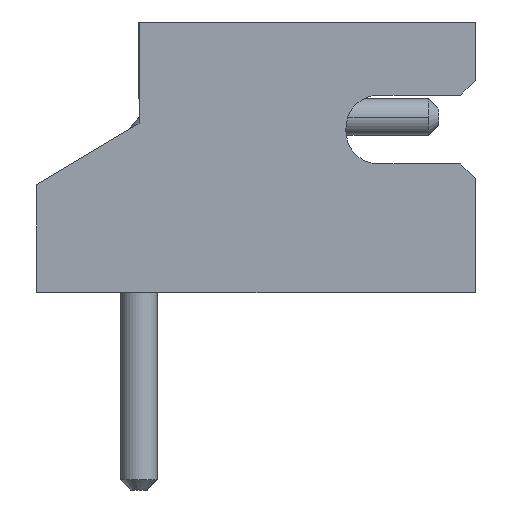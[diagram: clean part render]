
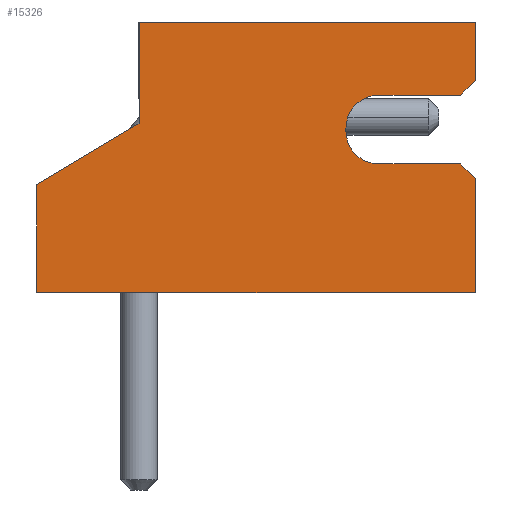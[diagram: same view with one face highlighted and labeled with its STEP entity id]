
A CAD part, left-side view. The second image highlights one B-rep face of the part: STEP entity #15326.
In plain terms, the highlighted planar face has unit normal (-1, 0, 0).
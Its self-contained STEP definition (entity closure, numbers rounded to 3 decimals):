
#54 = CARTESIAN_POINT ( 'NONE',  ( -6.75, -2.83, 2.209 ) ) ;
#210 = EDGE_CURVE ( 'NONE', #15182, #5148, #12902, .T. ) ;
#660 = CARTESIAN_POINT ( 'NONE',  ( -6.75, -4.6, 2.7 ) ) ;
#692 = VECTOR ( 'NONE', #17728, 1000. ) ;
#723 = EDGE_CURVE ( 'NONE', #2552, #7062, #7380, .T. ) ;
#789 = VERTEX_POINT ( 'NONE', #18215 ) ;
#1057 = EDGE_CURVE ( 'NONE', #17918, #8040, #7917, .T. ) ;
#1085 = VERTEX_POINT ( 'NONE', #5090 ) ;
#1462 = CARTESIAN_POINT ( 'NONE',  ( -6.75, 1.4, 0. ) ) ;
#1488 = AXIS2_PLACEMENT_3D ( 'NONE', #17362, #5260, #18542 ) ;
#1810 = ORIENTED_EDGE ( 'NONE', *, *, #18070, .T. ) ;
#1921 = DIRECTION ( 'NONE',  ( 1., 0., 0. ) ) ;
#2144 = EDGE_CURVE ( 'NONE', #1085, #17918, #8920, .T. ) ;
#2301 = VECTOR ( 'NONE', #7382, 1000. ) ;
#2522 = CARTESIAN_POINT ( 'NONE',  ( -6.75, 0., 3.7 ) ) ;
#2552 = VERTEX_POINT ( 'NONE', #12727 ) ;
#2824 = CARTESIAN_POINT ( 'NONE',  ( -6.75, -4.6, 3.7 ) ) ;
#2894 = EDGE_CURVE ( 'NONE', #11192, #2552, #15367, .T. ) ;
#2935 = CARTESIAN_POINT ( 'NONE',  ( -6.75, -3.28, 2.7 ) ) ;
#2955 = ORIENTED_EDGE ( 'NONE', *, *, #2894, .T. ) ;
#2961 = ORIENTED_EDGE ( 'NONE', *, *, #723, .T. ) ;
#3085 = LINE ( 'NONE', #13187, #10991 ) ;
#3419 = LINE ( 'NONE', #7802, #16626 ) ;
#3527 = ORIENTED_EDGE ( 'NONE', *, *, #5234, .F. ) ;
#3540 = VERTEX_POINT ( 'NONE', #18146 ) ;
#3610 = EDGE_CURVE ( 'NONE', #10007, #11192, #5427, .T. ) ;
#3652 = EDGE_CURVE ( 'NONE', #7062, #789, #14564, .T. ) ;
#3809 = VERTEX_POINT ( 'NONE', #6587 ) ;
#3846 = VECTOR ( 'NONE', #8426, 1000. ) ;
#4041 = LINE ( 'NONE', #8326, #8003 ) ;
#4591 = DIRECTION ( 'NONE',  ( 0., 0., -1. ) ) ;
#4835 = CARTESIAN_POINT ( 'NONE',  ( -6.75, 0., 2.313 ) ) ;
#5090 = CARTESIAN_POINT ( 'NONE',  ( -6.75, -2.83, 2.25 ) ) ;
#5148 = VERTEX_POINT ( 'NONE', #54 ) ;
#5234 = EDGE_CURVE ( 'NONE', #3540, #9956, #13397, .T. ) ;
#5260 = DIRECTION ( 'NONE',  ( 1., 0., 0. ) ) ;
#5427 = LINE ( 'NONE', #2522, #3846 ) ;
#5753 = ORIENTED_EDGE ( 'NONE', *, *, #1057, .T. ) ;
#5927 = FACE_OUTER_BOUND ( 'NONE', #7041, .T. ) ;
#6014 = PLANE ( 'NONE',  #8124 ) ;
#6270 = DIRECTION ( 'NONE',  ( 0., -1., 0. ) ) ;
#6408 = EDGE_CURVE ( 'NONE', #5148, #1085, #9922, .T. ) ;
#6587 = CARTESIAN_POINT ( 'NONE',  ( -6.75, -4.4, 1.759 ) ) ;
#6838 = DIRECTION ( 'NONE',  ( 0., -1., 0. ) ) ;
#6922 = ORIENTED_EDGE ( 'NONE', *, *, #6408, .T. ) ;
#7041 = EDGE_LOOP ( 'NONE', ( #13697, #8110, #9057, #9284, #6922, #8062, #5753, #1810, #3527, #12826, #16336, #2955, #2961, #11216 ) ) ;
#7062 = VERTEX_POINT ( 'NONE', #13061 ) ;
#7380 = LINE ( 'NONE', #11846, #692 ) ;
#7382 = DIRECTION ( 'NONE',  ( 0., -1., 0. ) ) ;
#7556 = CARTESIAN_POINT ( 'NONE',  ( -6.75, -4.4, 2.7 ) ) ;
#7802 = CARTESIAN_POINT ( 'NONE',  ( -6.75, 1.4, 3.7 ) ) ;
#7820 = CARTESIAN_POINT ( 'NONE',  ( -6.75, -4.6, 2.9 ) ) ;
#7917 = LINE ( 'NONE', #660, #9610 ) ;
#8003 = VECTOR ( 'NONE', #15789, 1000. ) ;
#8040 = VERTEX_POINT ( 'NONE', #7556 ) ;
#8062 = ORIENTED_EDGE ( 'NONE', *, *, #2144, .T. ) ;
#8110 = ORIENTED_EDGE ( 'NONE', *, *, #18943, .T. ) ;
#8124 = AXIS2_PLACEMENT_3D ( 'NONE', #16653, #1921, #15218 ) ;
#8259 = DIRECTION ( 'NONE',  ( 0., 0., 1. ) ) ;
#8326 = CARTESIAN_POINT ( 'NONE',  ( -6.75, -4.6, 1.759 ) ) ;
#8426 = DIRECTION ( 'NONE',  ( 0., 0., -1. ) ) ;
#8515 = VERTEX_POINT ( 'NONE', #8854 ) ;
#8854 = CARTESIAN_POINT ( 'NONE',  ( -6.75, -4.6, 1.559 ) ) ;
#8920 = CIRCLE ( 'NONE', #1488, 0.45 ) ;
#9057 = ORIENTED_EDGE ( 'NONE', *, *, #13263, .T. ) ;
#9284 = ORIENTED_EDGE ( 'NONE', *, *, #210, .T. ) ;
#9459 = CARTESIAN_POINT ( 'NONE',  ( -6.75, 0., 2.313 ) ) ;
#9610 = VECTOR ( 'NONE', #6270, 1000. ) ;
#9853 = CARTESIAN_POINT ( 'NONE',  ( -6.75, -3.28, 2.209 ) ) ;
#9922 = LINE ( 'NONE', #12842, #12711 ) ;
#9956 = VERTEX_POINT ( 'NONE', #7820 ) ;
#10007 = VERTEX_POINT ( 'NONE', #12661 ) ;
#10625 = DIRECTION ( 'NONE',  ( 0., 0.858, -0.513 ) ) ;
#10882 = DIRECTION ( 'NONE',  ( 0., -1., 0. ) ) ;
#10991 = VECTOR ( 'NONE', #17608, 1000. ) ;
#11192 = VERTEX_POINT ( 'NONE', #4835 ) ;
#11216 = ORIENTED_EDGE ( 'NONE', *, *, #3652, .T. ) ;
#11346 = CARTESIAN_POINT ( 'NONE',  ( -6.75, -3.28, 1.759 ) ) ;
#11624 = VECTOR ( 'NONE', #4591, 1000. ) ;
#11657 = VECTOR ( 'NONE', #17041, 1000. ) ;
#11846 = CARTESIAN_POINT ( 'NONE',  ( -6.75, 1.4, 3.7 ) ) ;
#12661 = CARTESIAN_POINT ( 'NONE',  ( -6.75, 0., 3.7 ) ) ;
#12711 = VECTOR ( 'NONE', #8259, 1000. ) ;
#12727 = CARTESIAN_POINT ( 'NONE',  ( -6.75, 1.4, 1.476 ) ) ;
#12826 = ORIENTED_EDGE ( 'NONE', *, *, #13679, .F. ) ;
#12842 = CARTESIAN_POINT ( 'NONE',  ( -6.75, -2.83, 2.25 ) ) ;
#12902 = CIRCLE ( 'NONE', #17210, 0.45 ) ;
#13061 = CARTESIAN_POINT ( 'NONE',  ( -6.75, 1.4, 0. ) ) ;
#13187 = CARTESIAN_POINT ( 'NONE',  ( -6.75, -4.4, 1.759 ) ) ;
#13263 = EDGE_CURVE ( 'NONE', #3809, #15182, #4041, .T. ) ;
#13397 = LINE ( 'NONE', #2824, #15250 ) ;
#13679 = EDGE_CURVE ( 'NONE', #10007, #3540, #3419, .T. ) ;
#13697 = ORIENTED_EDGE ( 'NONE', *, *, #17559, .F. ) ;
#14119 = DIRECTION ( 'NONE',  ( 1., 0., 0. ) ) ;
#14564 = LINE ( 'NONE', #1462, #2301 ) ;
#15182 = VERTEX_POINT ( 'NONE', #11346 ) ;
#15218 = DIRECTION ( 'NONE',  ( 0., 1., 0. ) ) ;
#15250 = VECTOR ( 'NONE', #17844, 1000. ) ;
#15326 = ADVANCED_FACE ( 'NONE', ( #5927 ), #6014, .F. ) ;
#15367 = LINE ( 'NONE', #9459, #17349 ) ;
#15523 = CARTESIAN_POINT ( 'NONE',  ( -6.75, -4.6, 2.9 ) ) ;
#15789 = DIRECTION ( 'NONE',  ( 0., 1., 0. ) ) ;
#16336 = ORIENTED_EDGE ( 'NONE', *, *, #3610, .T. ) ;
#16511 = CARTESIAN_POINT ( 'NONE',  ( -6.75, -4.6, 3.7 ) ) ;
#16626 = VECTOR ( 'NONE', #10882, 1000. ) ;
#16653 = CARTESIAN_POINT ( 'NONE',  ( -6.75, 1.4, 3.7 ) ) ;
#17041 = DIRECTION ( 'NONE',  ( 0., -0.707, 0.707 ) ) ;
#17210 = AXIS2_PLACEMENT_3D ( 'NONE', #9853, #14119, #6838 ) ;
#17349 = VECTOR ( 'NONE', #10625, 1000. ) ;
#17362 = CARTESIAN_POINT ( 'NONE',  ( -6.75, -3.28, 2.25 ) ) ;
#17559 = EDGE_CURVE ( 'NONE', #8515, #789, #17874, .T. ) ;
#17608 = DIRECTION ( 'NONE',  ( 0., 0.707, 0.707 ) ) ;
#17728 = DIRECTION ( 'NONE',  ( 0., 0., -1. ) ) ;
#17844 = DIRECTION ( 'NONE',  ( 0., 0., -1. ) ) ;
#17874 = LINE ( 'NONE', #16511, #11624 ) ;
#17918 = VERTEX_POINT ( 'NONE', #2935 ) ;
#18070 = EDGE_CURVE ( 'NONE', #8040, #9956, #18714, .T. ) ;
#18146 = CARTESIAN_POINT ( 'NONE',  ( -6.75, -4.6, 3.7 ) ) ;
#18215 = CARTESIAN_POINT ( 'NONE',  ( -6.75, -4.6, 0. ) ) ;
#18542 = DIRECTION ( 'NONE',  ( 0., -1., 0. ) ) ;
#18714 = LINE ( 'NONE', #15523, #11657 ) ;
#18943 = EDGE_CURVE ( 'NONE', #8515, #3809, #3085, .T. ) ;
